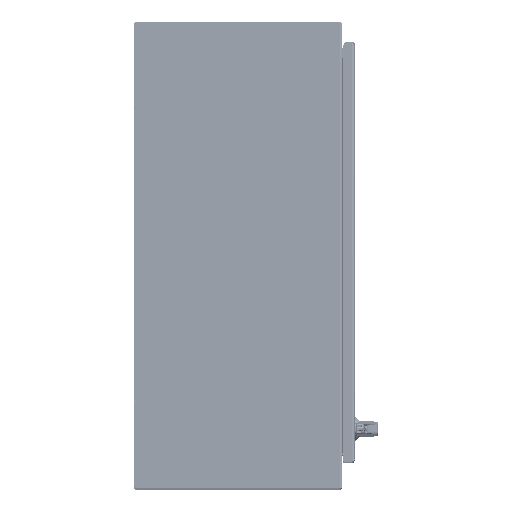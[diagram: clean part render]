
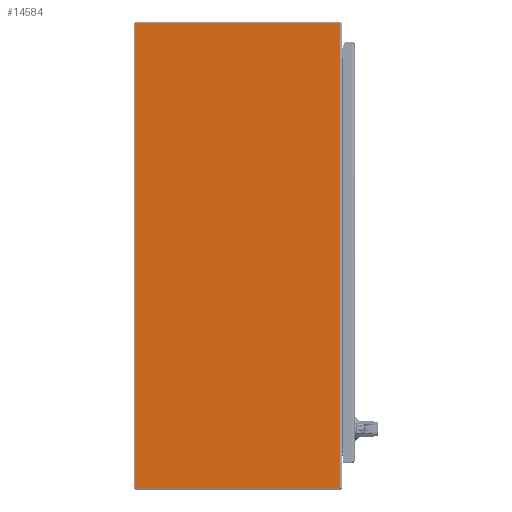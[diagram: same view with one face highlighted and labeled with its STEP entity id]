
A CAD part, top view. The second image highlights one B-rep face of the part: STEP entity #14584.
In plain terms, the highlighted planar face has unit normal (0, 0, 1) as drawn and (0, 1, 0) by its records, which use the part's own axes.
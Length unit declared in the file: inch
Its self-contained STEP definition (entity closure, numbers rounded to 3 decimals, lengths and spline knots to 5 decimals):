
#13799=CARTESIAN_POINT('',(-17.888,0.,-20.013));
#13800=DIRECTION('',(0.,1.,0.));
#13801=DIRECTION('',(0.,0.,-1.));
#13802=AXIS2_PLACEMENT_3D('',#13799,#13800,#13801);
#13807=CARTESIAN_POINT('',(-17.888,0.,20.013));
#13808=DIRECTION('',(0.,1.,0.));
#13809=DIRECTION('',(-1.,0.,0.));
#13810=AXIS2_PLACEMENT_3D('',#13807,#13808,#13809);
#13822=DIRECTION('',(0.,0.,-1.));
#13823=VECTOR('',#13822,40.026);
#13824=CARTESIAN_POINT('',(-17.948,0.,20.013));
#13825=LINE('',#13824,#13823);
#13850=DIRECTION('',(-1.,0.,0.));
#13851=VECTOR('',#13850,17.6415);
#13852=CARTESIAN_POINT('',(-0.2465,0.,20.073));
#13853=LINE('',#13852,#13851);
#13893=DIRECTION('',(0.,0.,1.));
#13894=VECTOR('',#13893,40.146);
#13895=CARTESIAN_POINT('',(-0.2465,0.,-20.073));
#13896=LINE('',#13895,#13894);
#14001=DIRECTION('',(-1.,0.,0.));
#14002=VECTOR('',#14001,17.6415);
#14003=CARTESIAN_POINT('',(-0.2465,0.,-20.073));
#14004=LINE('',#14003,#14002);
#14469=CARTESIAN_POINT('',(-0.2465,0.,20.073));
#14470=VERTEX_POINT('',#14469);
#14471=CARTESIAN_POINT('',(-0.2465,0.,-20.073));
#14472=VERTEX_POINT('',#14471);
#14497=CARTESIAN_POINT('',(-17.888,0.,-20.073));
#14498=CARTESIAN_POINT('',(-17.948,0.,-20.013));
#14499=VERTEX_POINT('',#14497);
#14500=VERTEX_POINT('',#14498);
#14505=CARTESIAN_POINT('',(-17.948,0.,20.013));
#14506=CARTESIAN_POINT('',(-17.888,0.,20.073));
#14507=VERTEX_POINT('',#14505);
#14508=VERTEX_POINT('',#14506);
#14565=CARTESIAN_POINT('',(0.,0.,20.073));
#14566=DIRECTION('',(0.,1.,0.));
#14567=DIRECTION('',(-1.,0.,0.));
#14568=AXIS2_PLACEMENT_3D('',#14565,#14566,#14567);
#14569=PLANE('',#14568);
#14571=ORIENTED_EDGE('',*,*,#14570,.F.);
#14573=ORIENTED_EDGE('',*,*,#14572,.F.);
#14575=ORIENTED_EDGE('',*,*,#14574,.T.);
#14577=ORIENTED_EDGE('',*,*,#14576,.T.);
#14579=ORIENTED_EDGE('',*,*,#14578,.F.);
#14581=ORIENTED_EDGE('',*,*,#14580,.T.);
#14582=EDGE_LOOP('',(#14571,#14573,#14575,#14577,#14579,#14581));
#14583=FACE_OUTER_BOUND('',#14582,.F.);
#13803=CIRCLE('',#13802,0.06);
#13811=CIRCLE('',#13810,0.06);
#14570=EDGE_CURVE('',#14499,#14500,#13803,.T.);
#14572=EDGE_CURVE('',#14472,#14499,#14004,.T.);
#14574=EDGE_CURVE('',#14472,#14470,#13896,.T.);
#14576=EDGE_CURVE('',#14470,#14508,#13853,.T.);
#14578=EDGE_CURVE('',#14507,#14508,#13811,.T.);
#14580=EDGE_CURVE('',#14507,#14500,#13825,.T.);
#14584=ADVANCED_FACE('',(#14583),#14569,.T.);
